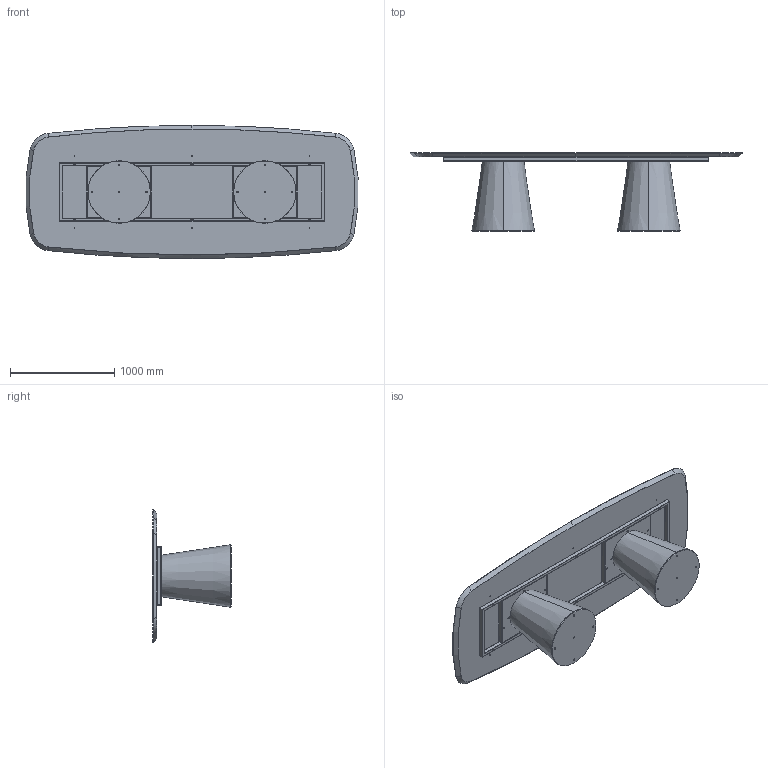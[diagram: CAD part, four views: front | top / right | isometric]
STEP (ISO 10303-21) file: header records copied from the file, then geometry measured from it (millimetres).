
FILE_DESCRIPTION (( 'STEP AP203' ), '1' );
FILE_NAME ('TO45W_Teo_320x128_Wood Shaped.STEP', '2024-08-02T09:41:01', ( '' ), ( '' ), 'SwSTEP 2.0', 'SolidWorks 2022', '' );
FILE_SCHEMA (( 'CONFIG_CONTROL_DESIGN' ));
Length unit declared in the file: millimetre
Products named in the file (12): TEO0000-00-TEO BASE LEGNO IMPIALLACCIATA LEVIGATO PRONTA X VERNICE; M8xXXmm_hex_M8X20mm; TO45W_Teo_320x128_Wood Shaped; BASE TED LEGNO CON ZAVORRA; TTAV03-06-TELAIO UNIVERSALE X TAVOLI 300-340cm; TEO000000PIA-00-TEO PIASTRA DI BASE IN METALLO GREZZO; TTAV03_02-06-VASSOIO IRRIGIDIMENTO TELAIO UNIVERSALE RETTANGOLARE; M8xXXmm_M8x55mm; COLLO TELAIO UNIVERSALE TTAV03 CON FERRAMENTA_MTG TOP LEGNO-MARMO-KING; TTAV03_01-06-RING TUBO TELAIO UNIVERSALE X TAVOLI 300-340cm; rondella M8_8X24; W4XCMXX-00-Piani Sagomati legno_3200 x 1280
Assembly tree (26 placements, depth 4):
  TO45W_Teo_320x128_Wood Shaped
    BASE TED LEGNO CON ZAVORRA  x2
      TEO000000PIA-00-TEO PIASTRA DI BASE IN METALLO GREZZO
      TEO0000-00-TEO BASE LEGNO IMPIALLACCIATA LEVIGATO PRONTA X VERNICE
      M8xXXmm_hex_M8X20mm
    COLLO TELAIO UNIVERSALE TTAV03 CON FERRAMENTA_MTG TOP LEGNO-MARMO-KING
      TTAV03-06-TELAIO UNIVERSALE X TAVOLI 300-340cm
        TTAV03_01-06-RING TUBO TELAIO UNIVERSALE X TAVOLI 300-340cm
        TTAV03_02-06-VASSOIO IRRIGIDIMENTO TELAIO UNIVERSALE RETTANGOLARE  x2
      rondella M8_8X24  x6
      M8xXXmm_M8x55mm  x6
    W4XCMXX-00-Piani Sagomati legno_3200 x 1280
Bounding box: 3190.14 x 751.19 x 1280 mm (x, y, z)
Volume: 200187272.2 mm3; surface area: 17393448.4 mm2
Topology: 28 solids, 28 shells, 1115 faces, 2552 edges, 1465 vertices
Faces by surface type: plane 486, cylinder 321, cone 203, torus 97, sphere 8
Entity records: 15027 total; most frequent: DIRECTION 2473, CARTESIAN_POINT 2313, ORIENTED_EDGE 2156, EDGE_CURVE 1078, AXIS2_PLACEMENT_3D 934, VERTEX_POINT 656, VECTOR 605, LINE 605
